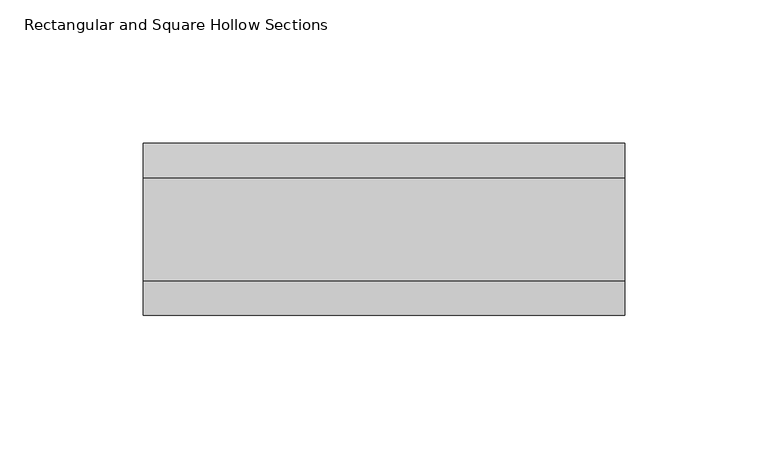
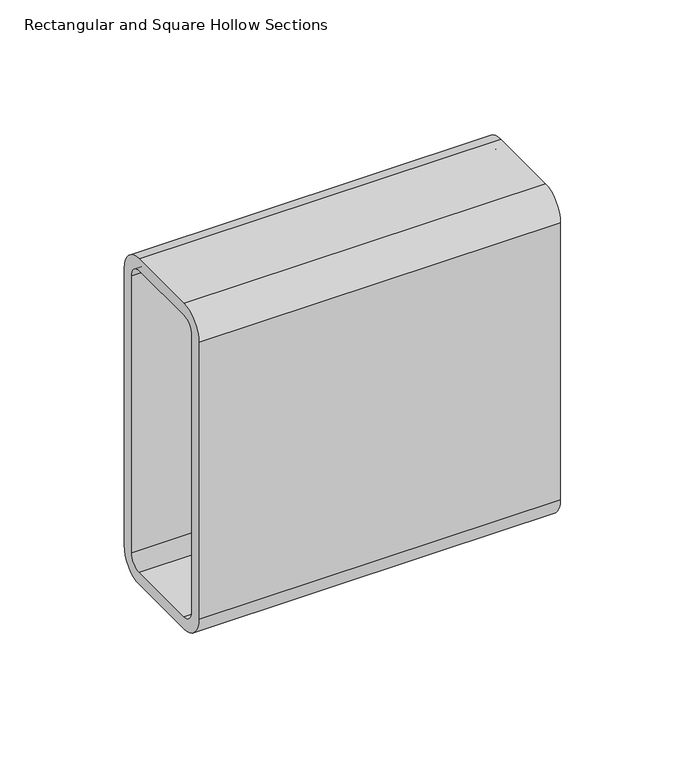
"""IFC4 building model written with IfcOpenShell, lengths in millimetres: beam geometry, Rectangular and Square Hollow Sections : TREC160x60x6."""

from ifc_helpers import new_model, si_unit, point, frame, frame_2d, origin, place, context, project, spatial, polyline, circle_curve, trimmed, segment, composite_curve, outline, extrude, source, transform, mapped, element, save


def rectangular_and_square_hollow_sections_a73800cf(model_context):
    return source(origin(), model_context, "Body", "SweptSolid", [
        extrude(outline(composite_curve([segment(polyline([(30.0, 68.0), (30.0, -68.0)]), True, "CONTINUOUS"), segment(trimmed(circle_curve(frame_2d((18.0, -68.0)), 12.0), [point((30.0, -68.0))], [point((18.0, -80.0))], False, "CARTESIAN"), True, "CONTINUOUS"), segment(polyline([(18.0, -80.0), (-18.0, -80.0)]), True, "CONTINUOUS"), segment(trimmed(circle_curve(frame_2d((-18.0, -68.0)), 12.0), [point((-18.0, -80.0))], [point((-30.0, -68.0))], False, "CARTESIAN"), True, "CONTINUOUS"), segment(polyline([(-30.0, -68.0), (-30.0, 68.0)]), True, "CONTINUOUS"), segment(trimmed(circle_curve(frame_2d((-18.0, 68.0)), 12.0), [point((-30.0, 68.0))], [point((-18.0, 80.0))], False, "CARTESIAN"), True, "CONTINUOUS"), segment(polyline([(-18.0, 80.0), (18.0, 80.0)]), True, "CONTINUOUS"), segment(trimmed(circle_curve(frame_2d((18.0, 68.0)), 12.0), [point((18.0, 80.0))], [point((30.0, 68.0))], False, "CARTESIAN"), True, "CONTINUOUS")], self_intersect=False), holes=[composite_curve([segment(trimmed(circle_curve(frame_2d((-18.0, 68.0)), 6.0), [point((-18.0, 74.0))], [point((-24.0, 68.0))], True, "CARTESIAN"), True, "CONTINUOUS"), segment(polyline([(-24.0, 68.0), (-24.0, -68.0)]), True, "CONTINUOUS"), segment(trimmed(circle_curve(frame_2d((-18.0, -68.0)), 6.0), [point((-24.0, -68.0))], [point((-18.0, -74.0))], True, "CARTESIAN"), True, "CONTINUOUS"), segment(polyline([(-18.0, -74.0), (18.0, -74.0)]), True, "CONTINUOUS"), segment(trimmed(circle_curve(frame_2d((18.0, -68.0)), 6.0), [point((18.0, -74.0))], [point((24.0, -68.0))], True, "CARTESIAN"), True, "CONTINUOUS"), segment(polyline([(24.0, -68.0), (24.0, 68.0)]), True, "CONTINUOUS"), segment(trimmed(circle_curve(frame_2d((18.0, 68.0)), 6.0), [point((24.0, 68.0))], [point((18.0, 74.0))], True, "CARTESIAN"), True, "CONTINUOUS"), segment(polyline([(18.0, 74.0), (-18.0, 74.0)]), True, "CONTINUOUS")], self_intersect=False)]), frame((-84.0, 0.0, 0.0), z_axis=(1.0, 0.0, 0.0), x_axis=(0.0, 1.0, 0.0)), (0.0, 0.0, 1.0), 168.0),
    ])


if __name__ == "__main__":
    model = new_model("IFC4")
    model_context = context("Model", 3, world=origin())
    ifc_project = project(units=[si_unit("LENGTHUNIT", "METRE", prefix="MILLI")], contexts=[model_context])
    site = spatial("IfcSite", under=ifc_project)
    building = spatial("IfcBuilding", under=site)
    placement = place(None, origin())
    rectangular_and_square_hollow_sections_shape = rectangular_and_square_hollow_sections_a73800cf(model_context)
    element("IfcBeam", 1, ObjectType="Rectangular and Square Hollow Sections : TREC160x60x6", at=placement, inside=building, context=model_context, shape_type="MappedRepresentation", body=[
        mapped(rectangular_and_square_hollow_sections_shape, transform((0.0, 0.0, 0.0), x_axis=(1.0, 0.0, 0.0), y_axis=(0.0, 1.0, 0.0), z_axis=(0.0, 0.0, 1.0))),
    ])
    save(model, "model.ifc")
